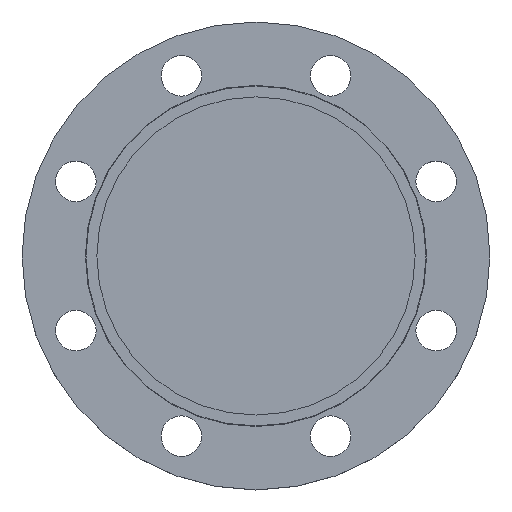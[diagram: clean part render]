
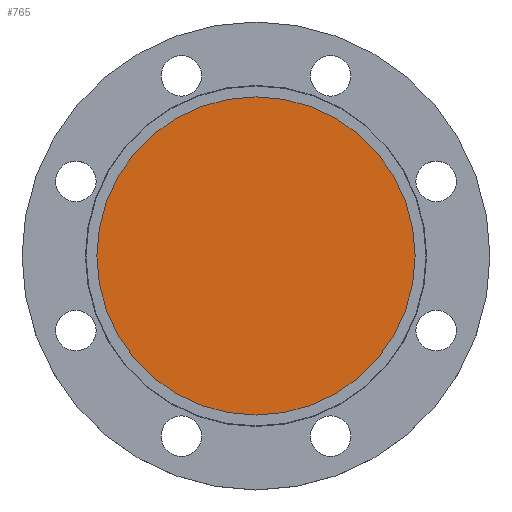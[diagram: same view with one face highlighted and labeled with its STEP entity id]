
A CAD part, top view. The second image highlights one B-rep face of the part: STEP entity #765.
In plain terms, the highlighted planar face has unit normal (0, 0, 1).
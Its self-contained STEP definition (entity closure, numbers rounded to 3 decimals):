
#27 = AXIS2_PLACEMENT_3D ( 'NONE', #269, #268, #267 ) ;
#79 = DIRECTION ( 'NONE',  ( -1., 0., 0. ) ) ;
#80 = DIRECTION ( 'NONE',  ( 0., 0., -1. ) ) ;
#81 = CARTESIAN_POINT ( 'NONE',  ( 0., 0., -4.5 ) ) ;
#166 = CIRCLE ( 'NONE', #845, 102. ) ;
#248 = AXIS2_PLACEMENT_3D ( 'NONE', #81, #80, #79 ) ;
#267 = DIRECTION ( 'NONE',  ( 1., 0., 0. ) ) ;
#268 = DIRECTION ( 'NONE',  ( 0., 0., 1. ) ) ;
#269 = CARTESIAN_POINT ( 'NONE',  ( 102., 0., -4.5 ) ) ;
#270 = PLANE ( 'NONE',  #27 ) ;
#273 = FACE_OUTER_BOUND ( 'NONE', #999, .T. ) ;
#274 = DIRECTION ( 'NONE',  ( -1., 0., 0. ) ) ;
#275 = DIRECTION ( 'NONE',  ( 0., 0., -1. ) ) ;
#276 = CARTESIAN_POINT ( 'NONE',  ( 0., 0., -4.5 ) ) ;
#329 = CARTESIAN_POINT ( 'NONE',  ( 102., 0., -4.5 ) ) ;
#350 = CARTESIAN_POINT ( 'NONE',  ( -102., 0., -4.5 ) ) ;
#565 = VERTEX_POINT ( 'NONE', #350 ) ;
#652 = ORIENTED_EDGE ( 'NONE', *, *, #757, .F. ) ;
#653 = ORIENTED_EDGE ( 'NONE', *, *, #996, .F. ) ;
#682 = VERTEX_POINT ( 'NONE', #329 ) ;
#757 = EDGE_CURVE ( 'NONE', #565, #682, #166, .T. ) ;
#765 = ADVANCED_FACE ( 'NONE', ( #273 ), #270, .T. ) ;
#845 = AXIS2_PLACEMENT_3D ( 'NONE', #276, #275, #274 ) ;
#996 = EDGE_CURVE ( 'NONE', #682, #565, #1015, .T. ) ;
#999 = EDGE_LOOP ( 'NONE', ( #652, #653 ) ) ;
#1015 = CIRCLE ( 'NONE', #248, 102. ) ;
